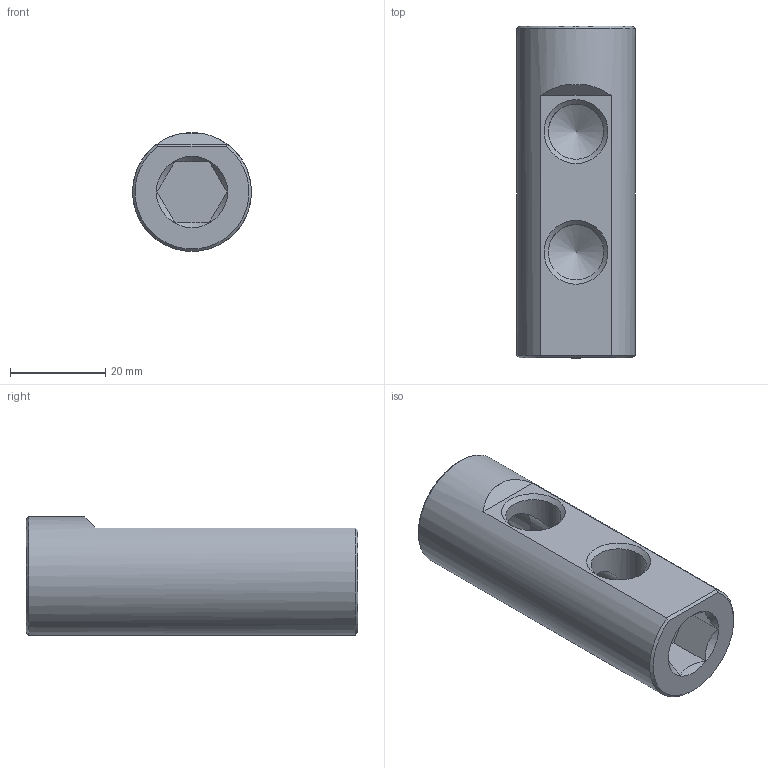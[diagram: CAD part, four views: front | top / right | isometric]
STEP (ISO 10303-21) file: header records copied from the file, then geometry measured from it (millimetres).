
FILE_DESCRIPTION(/* description */ (''),/* implementation_level */ '2;1');
FILE_NAME(/* name */ 'C:/Users/drich/Desktop/E381H-4 v1.step',/* time_stamp */ '2020-12-12T11:50:28-06:00',/* author */ (''),/* organization */ (''),/* preprocessor_version */ 'ST-DEVELOPER v18.1',/* originating_system */ 'Autodesk Translation Framework v9.3.0.1241',/* authorisation */ '');
FILE_SCHEMA (('AUTOMOTIVE_DESIGN { 1 0 10303 214 3 1 1 }'));
Length unit declared in the file: inch
Products named in the file (2): E381H-4; E381H-4_1
Assembly tree (1 placements, depth 2):
  E381H-4
    E381H-4_1
Bounding box: 25.02 x 69.85 x 25.02 mm (x, y, z)
Volume: 23606.2 mm3; surface area: 8838.8 mm2
Topology: 1 solids, 1 shells, 30 faces, 81 edges, 53 vertices
Faces by surface type: plane 13, cone 10, cylinder 7
Full cylindrical faces by diameter (mm): 8.509 x1, 11.668 x3, 12.7 x1, 15.173 x1, 25.019 x1
Entity records: 1113 total; most frequent: CARTESIAN_POINT 331, ORIENTED_EDGE 158, DIRECTION 145, EDGE_CURVE 79, AXIS2_PLACEMENT_3D 55, VERTEX_POINT 53, EDGE_LOOP 36, LINE 35
